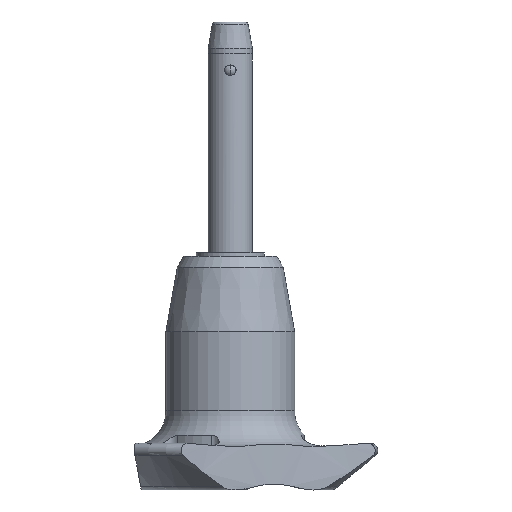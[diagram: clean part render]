
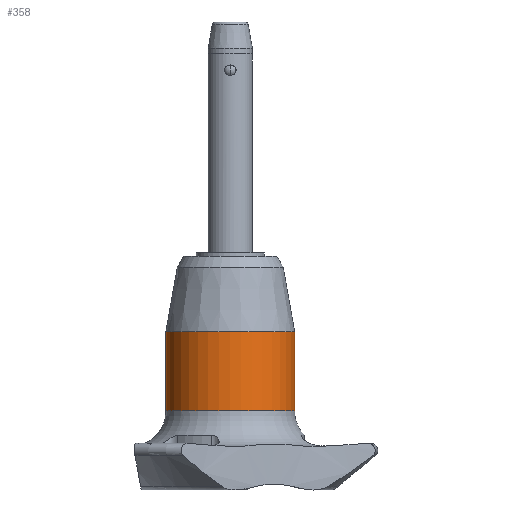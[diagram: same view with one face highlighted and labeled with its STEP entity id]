
A CAD part, front view. The second image highlights one B-rep face of the part: STEP entity #358.
In plain terms, the highlighted cylindrical face has radius 7.25 mm (diameter 14.5 mm), a partial arc.
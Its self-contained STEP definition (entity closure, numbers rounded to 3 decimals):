
#115 = ORIENTED_EDGE ( 'NONE', *, *, #2473, .F. ) ;
#191 = DIRECTION ( 'NONE',  ( 0., 0., -1. ) ) ;
#196 = CARTESIAN_POINT ( 'NONE',  ( 0., 0., -28.9 ) ) ;
#218 = CARTESIAN_POINT ( 'NONE',  ( 7.25, 0., -28.9 ) ) ;
#226 = DIRECTION ( 'NONE',  ( 0., 0., -1. ) ) ;
#292 = EDGE_LOOP ( 'NONE', ( #115, #1281, #909, #676 ) ) ;
#347 = CARTESIAN_POINT ( 'NONE',  ( 7.25, 0., -37.8 ) ) ;
#358 = ADVANCED_FACE ( 'NONE', ( #1473 ), #2748, .T. ) ;
#611 = CIRCLE ( 'NONE', #2680, 7.25 ) ;
#642 = CARTESIAN_POINT ( 'NONE',  ( -7.25, 0., -37.8 ) ) ;
#676 = ORIENTED_EDGE ( 'NONE', *, *, #684, .F. ) ;
#684 = EDGE_CURVE ( 'NONE', #1131, #2743, #611, .T. ) ;
#856 = CARTESIAN_POINT ( 'NONE',  ( 0., 0., -37.8 ) ) ;
#909 = ORIENTED_EDGE ( 'NONE', *, *, #920, .T. ) ;
#920 = EDGE_CURVE ( 'NONE', #2280, #2743, #1550, .T. ) ;
#997 = DIRECTION ( 'NONE',  ( -1., 0., 0. ) ) ;
#1084 = DIRECTION ( 'NONE',  ( 0., 0., -1. ) ) ;
#1131 = VERTEX_POINT ( 'NONE', #347 ) ;
#1151 = DIRECTION ( 'NONE',  ( 0., 0., -1. ) ) ;
#1187 = VERTEX_POINT ( 'NONE', #218 ) ;
#1281 = ORIENTED_EDGE ( 'NONE', *, *, #2470, .T. ) ;
#1380 = AXIS2_PLACEMENT_3D ( 'NONE', #196, #226, #2546 ) ;
#1404 = CARTESIAN_POINT ( 'NONE',  ( 0., 0., -37.8 ) ) ;
#1437 = CARTESIAN_POINT ( 'NONE',  ( -7.25, 0., -28.9 ) ) ;
#1473 = FACE_OUTER_BOUND ( 'NONE', #292, .T. ) ;
#1550 = LINE ( 'NONE', #642, #2462 ) ;
#1625 = CARTESIAN_POINT ( 'NONE',  ( -7.25, 0., -37.8 ) ) ;
#1647 = AXIS2_PLACEMENT_3D ( 'NONE', #856, #191, #2776 ) ;
#2053 = DIRECTION ( 'NONE',  ( 0., 0., -1. ) ) ;
#2189 = VECTOR ( 'NONE', #1084, 1000. ) ;
#2280 = VERTEX_POINT ( 'NONE', #1437 ) ;
#2317 = LINE ( 'NONE', #2356, #2189 ) ;
#2356 = CARTESIAN_POINT ( 'NONE',  ( 7.25, 0., -37.8 ) ) ;
#2462 = VECTOR ( 'NONE', #1151, 1000. ) ;
#2470 = EDGE_CURVE ( 'NONE', #1187, #2280, #2638, .T. ) ;
#2473 = EDGE_CURVE ( 'NONE', #1187, #1131, #2317, .T. ) ;
#2546 = DIRECTION ( 'NONE',  ( -1., 0., 0. ) ) ;
#2638 = CIRCLE ( 'NONE', #1380, 7.25 ) ;
#2680 = AXIS2_PLACEMENT_3D ( 'NONE', #1404, #2053, #997 ) ;
#2743 = VERTEX_POINT ( 'NONE', #1625 ) ;
#2748 = CYLINDRICAL_SURFACE ( 'NONE', #1647, 7.25 ) ;
#2776 = DIRECTION ( 'NONE',  ( -1., 0., 0. ) ) ;
